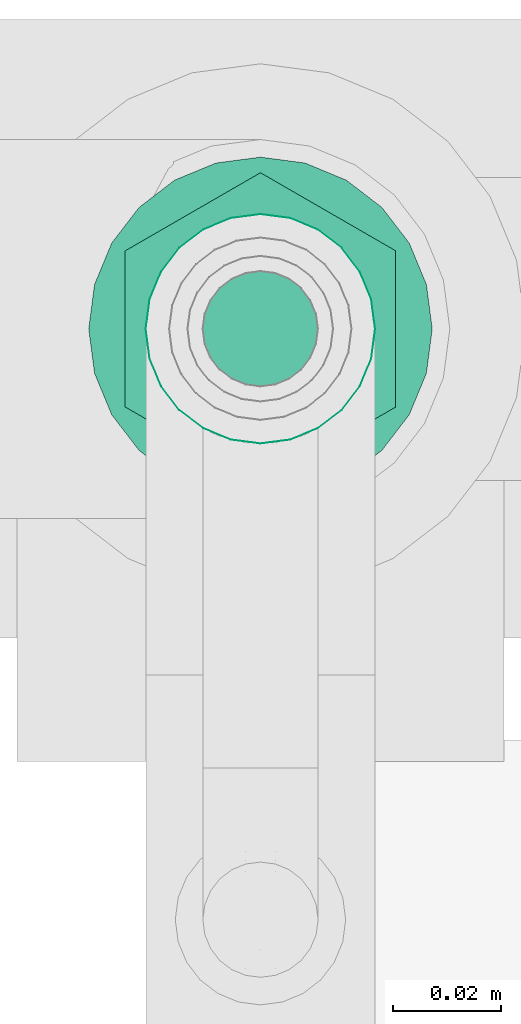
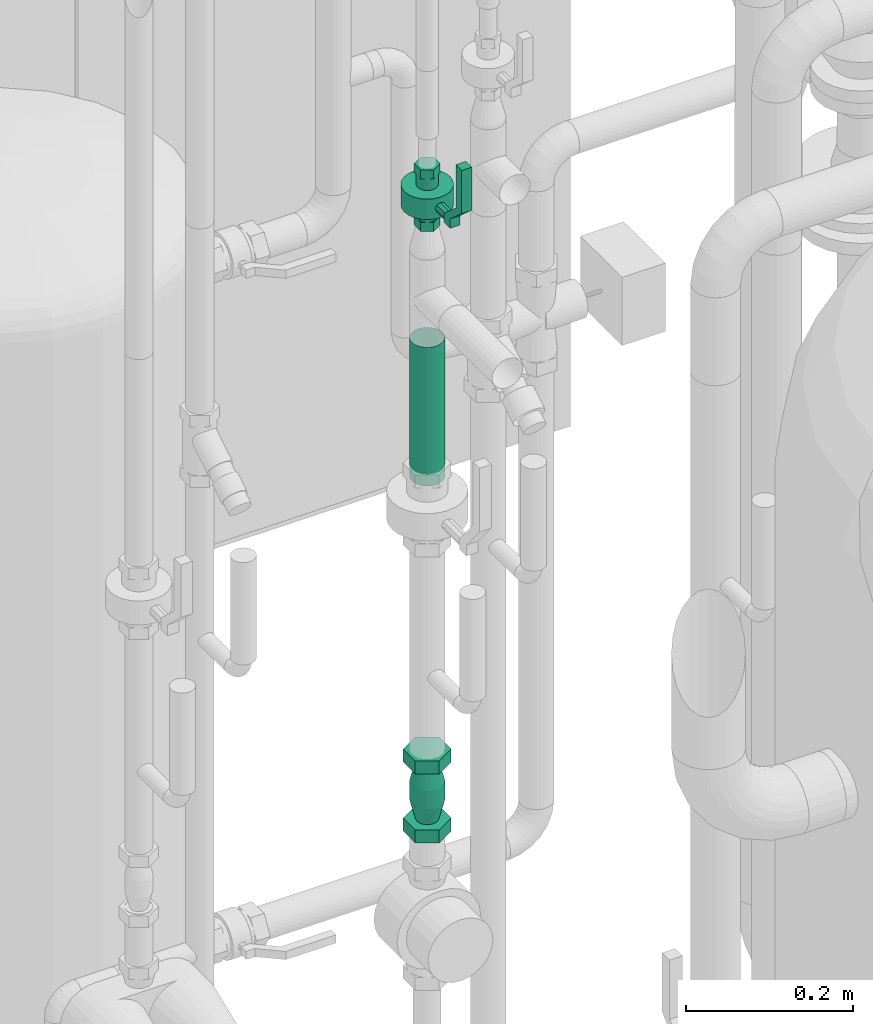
# One storey, part 271 of 374: 2 flow controllers, 1 flow segment.
"""IFC2X3 building model written with IfcOpenShell, lengths in metres."""

from ifc_helpers import new_model, si_unit, direction, origin, place, context, subcontext, project, spatial, open_shell, surface_model, source, transform, mapped, element, save


model = new_model("IFC2X3")

# Units and contexts
model_context = context("Model", 3, precision=1e-05, world=origin(), true_north=direction((-0.4480736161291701, 0.8939966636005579)))
body_context = subcontext(model_context, "Body", "Model", "MODEL_VIEW")
ifc_project = project(units=[si_unit("LENGTHUNIT", "METRE"), si_unit("AREAUNIT", "SQUARE_METRE"), si_unit("VOLUMEUNIT", "CUBIC_METRE"), si_unit("PLANEANGLEUNIT", "RADIAN"), si_unit("THERMODYNAMICTEMPERATUREUNIT", "KELVIN"), si_unit("MASSUNIT", "GRAM", prefix="KILO"), si_unit("TIMEUNIT", "SECOND")], contexts=[model_context])

# Site, building, storey
site_placement = place(None, origin())
site = spatial("IfcSite", under=ifc_project, at=site_placement, Name="Site 1", CompositionType="ELEMENT")
building_placement = place(site_placement, origin())
building = spatial("IfcBuilding", under=site, at=building_placement, Name="Undefined", CompositionType="ELEMENT")
storey_placement = place(building_placement, origin())
storey = spatial("IfcBuildingStorey", under=building, at=storey_placement, Name="Rez de chauss\x8ee", CompositionType="ELEMENT", Elevation=0.0)

# Flow controller
shared_shape_1 = source(origin(), body_context, "Body", "SurfaceModel", [
    surface_model("IfcFaceBasedSurfaceModel", [(0.0, 0.0, 0.0), (0.028867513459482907, 0.0, 0.0), (0.028867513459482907, 0.019099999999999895, 0.0), (0.0, 0.019099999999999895, 0.0), (-0.014433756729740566, 0.0, 0.02499999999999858), (-0.014433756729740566, 0.019099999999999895, 0.02499999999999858), (0.0, 0.0, 0.04999999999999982), (0.0, 0.019099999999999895, 0.04999999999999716), (0.028867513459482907, 0.0, 0.04999999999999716), (0.028867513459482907, 0.019099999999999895, 0.04999999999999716), (0.04330127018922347, 0.0, 0.02499999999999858), (0.04330127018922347, 0.019099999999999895, 0.02499999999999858), (0.00030042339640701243, 0.019099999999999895, 0.025000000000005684), (0.0007820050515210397, 0.019099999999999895, 0.02865797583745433), (-0.006043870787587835, 0.04636666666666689, 0.030486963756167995), (-0.0067662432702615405, 0.04636666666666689, 0.025000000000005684), (0.0021939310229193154, 0.019099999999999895, 0.032066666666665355), (-0.003925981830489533, 0.04636666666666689, 0.03559999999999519), (0.004439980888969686, 0.019099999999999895, 0.03499377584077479), (-0.0005569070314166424, 0.04636666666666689, 0.03999066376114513), (0.007367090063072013, 0.019099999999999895, 0.03723982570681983), (0.0038337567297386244, 0.04636666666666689, 0.043359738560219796), (0.01077578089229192, 0.019099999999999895, 0.038651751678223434), (0.008946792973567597, 0.04636666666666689, 0.04547762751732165), (0.014433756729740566, 0.019099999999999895, 0.03913333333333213), (0.014433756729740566, 0.04636666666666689, 0.0461999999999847), (0.018091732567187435, 0.019099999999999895, 0.038651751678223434), (0.019920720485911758, 0.04636666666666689, 0.04547762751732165), (0.021500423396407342, 0.019099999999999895, 0.03723982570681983), (0.025033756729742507, 0.04636666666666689, 0.043359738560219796), (0.02442753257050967, 0.019099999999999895, 0.03499377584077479), (0.029424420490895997, 0.04636666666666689, 0.03999066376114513), (0.02667358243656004, 0.019099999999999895, 0.032066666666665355), (0.03279349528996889, 0.04636666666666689, 0.03559999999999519), (0.028085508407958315, 0.019099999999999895, 0.02865797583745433), (0.03491138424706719, 0.04636666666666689, 0.030486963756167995), (0.028567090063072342, 0.019099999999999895, 0.025000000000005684), (0.035633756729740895, 0.04636666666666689, 0.025000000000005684), (0.028085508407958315, 0.019099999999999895, 0.021342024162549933), (0.03491138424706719, 0.04636666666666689, 0.019513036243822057), (0.02667358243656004, 0.019099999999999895, 0.017933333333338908), (0.03279349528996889, 0.04636666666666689, 0.014399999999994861), (0.02442753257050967, 0.019099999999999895, 0.01500622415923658), (0.029424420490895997, 0.04636666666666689, 0.010009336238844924), (0.021500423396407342, 0.019099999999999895, 0.012760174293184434), (0.025033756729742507, 0.04636666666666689, 0.006640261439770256), (0.018091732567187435, 0.019099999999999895, 0.01134824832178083), (0.019920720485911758, 0.04636666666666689, 0.004522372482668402), (0.014433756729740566, 0.019099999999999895, 0.010866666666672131), (0.014433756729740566, 0.04636666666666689, 0.003799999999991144), (0.01077578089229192, 0.019099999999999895, 0.01134824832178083), (0.008946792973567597, 0.04636666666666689, 0.004522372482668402), (0.007367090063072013, 0.019099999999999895, 0.012760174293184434), (0.0038337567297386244, 0.04636666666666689, 0.006640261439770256), (0.004439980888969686, 0.019099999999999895, 0.01500622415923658), (-0.0005569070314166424, 0.04636666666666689, 0.010009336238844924), (0.0021939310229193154, 0.019099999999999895, 0.017933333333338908), (-0.003925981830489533, 0.04636666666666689, 0.014399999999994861), (0.0007820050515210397, 0.019099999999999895, 0.021342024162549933), (-0.006043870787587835, 0.04636666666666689, 0.019513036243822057), (0.019920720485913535, 0.07363333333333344, 0.045477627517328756), (0.014433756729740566, 0.07363333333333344, 0.04619999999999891), (0.02503375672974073, 0.07363333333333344, 0.04335973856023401), (0.02942442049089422, 0.07363333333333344, 0.03999066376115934), (0.03279349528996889, 0.07363333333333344, 0.035600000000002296), (0.03491138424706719, 0.07363333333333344, 0.0304869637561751), (0.035633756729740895, 0.07363333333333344, 0.025000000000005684), (0.03491138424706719, 0.07363333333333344, 0.019513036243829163), (0.03279349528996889, 0.07363333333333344, 0.014400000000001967), (0.02942442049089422, 0.07363333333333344, 0.010009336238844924), (0.02503375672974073, 0.07363333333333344, 0.006640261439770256), (0.019920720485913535, 0.07363333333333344, 0.004522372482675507), (0.014433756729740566, 0.07363333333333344, 0.0038000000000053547), (0.00894679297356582, 0.07363333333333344, 0.004522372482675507), (0.0038337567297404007, 0.07363333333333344, 0.006640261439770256), (-0.0005569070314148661, 0.07363333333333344, 0.010009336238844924), (-0.003925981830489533, 0.07363333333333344, 0.014400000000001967), (-0.006043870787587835, 0.07363333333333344, 0.019513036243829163), (-0.0067662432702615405, 0.07363333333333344, 0.025000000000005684), (-0.006043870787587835, 0.07363333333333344, 0.0304869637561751), (-0.003925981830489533, 0.07363333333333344, 0.035600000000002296), (-0.0005569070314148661, 0.07363333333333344, 0.03999066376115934), (0.0038337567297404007, 0.07363333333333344, 0.04335973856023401), (0.00894679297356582, 0.07363333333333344, 0.045477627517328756), (0.0007820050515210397, 0.10090000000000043, 0.028657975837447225), (0.0003004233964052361, 0.10090000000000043, 0.02499999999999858), (0.0021939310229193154, 0.10090000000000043, 0.03206666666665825), (0.004439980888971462, 0.10090000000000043, 0.03499377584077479), (0.007367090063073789, 0.10090000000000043, 0.03723982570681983), (0.010775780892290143, 0.10090000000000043, 0.03865175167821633), (0.014433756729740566, 0.10090000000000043, 0.03913333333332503), (0.01809173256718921, 0.10090000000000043, 0.03865175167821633), (0.021500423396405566, 0.10090000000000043, 0.03723982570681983), (0.024427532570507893, 0.10090000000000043, 0.03499377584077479), (0.02667358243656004, 0.10090000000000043, 0.03206666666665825), (0.028085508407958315, 0.10090000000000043, 0.028657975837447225), (0.02856709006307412, 0.10090000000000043, 0.02499999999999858), (0.028085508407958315, 0.10090000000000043, 0.021342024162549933), (0.02667358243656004, 0.10090000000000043, 0.017933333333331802), (0.024427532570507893, 0.10090000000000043, 0.015006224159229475), (0.021500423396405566, 0.10090000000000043, 0.012760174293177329), (0.01809173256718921, 0.10090000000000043, 0.011348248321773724), (0.014433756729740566, 0.10090000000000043, 0.010866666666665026), (0.010775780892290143, 0.10090000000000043, 0.011348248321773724), (0.007367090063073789, 0.10090000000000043, 0.012760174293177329), (0.004439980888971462, 0.10090000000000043, 0.015006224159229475), (0.0021939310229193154, 0.10090000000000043, 0.017933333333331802), (0.0007820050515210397, 0.10090000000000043, 0.021342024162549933), (0.0, 0.10090000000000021, 0.0), (0.02886751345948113, 0.10090000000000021, 0.0), (0.02886751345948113, 0.1200000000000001, 0.0), (0.0, 0.1200000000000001, 0.0), (-0.014433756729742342, 0.10090000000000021, 0.025000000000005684), (-0.014433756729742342, 0.1200000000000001, 0.025000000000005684), (0.0, 0.10090000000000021, 0.05000000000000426), (0.0, 0.1200000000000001, 0.05000000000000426), (0.02886751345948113, 0.10090000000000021, 0.05000000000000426), (0.02886751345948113, 0.1200000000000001, 0.05000000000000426), (0.0433012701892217, 0.10090000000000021, 0.025000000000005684), (0.0433012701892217, 0.1200000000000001, 0.025000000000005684)], [open_shell([[[0, 1, 2, 3]], [[4, 0, 3, 5]], [[6, 4, 5, 7]], [[8, 6, 7, 9]], [[10, 8, 9, 11]], [[1, 10, 11, 2]], [[1, 0, 4]], [[1, 4, 6]], [[1, 6, 8]], [[1, 8, 10]], [[2, 5, 3]], [[2, 7, 5]], [[2, 9, 7]], [[2, 11, 9]], [[12, 13, 14, 15]], [[13, 16, 17, 14]], [[16, 18, 19, 17]], [[18, 20, 21, 19]], [[20, 22, 23, 21]], [[22, 24, 25, 23]], [[24, 26, 27, 25]], [[26, 28, 29, 27]], [[28, 30, 31, 29]], [[30, 32, 33, 31]], [[32, 34, 35, 33]], [[34, 36, 37, 35]], [[36, 38, 39, 37]], [[38, 40, 41, 39]], [[40, 42, 43, 41]], [[42, 44, 45, 43]], [[44, 46, 47, 45]], [[46, 48, 49, 47]], [[48, 50, 51, 49]], [[50, 52, 53, 51]], [[52, 54, 55, 53]], [[54, 56, 57, 55]], [[56, 58, 59, 57]], [[58, 12, 15, 59]], [[25, 27, 60, 61]], [[27, 29, 62, 60]], [[29, 31, 63, 62]], [[31, 33, 64, 63]], [[33, 35, 65, 64]], [[35, 37, 66, 65]], [[37, 39, 67, 66]], [[39, 41, 68, 67]], [[41, 43, 69, 68]], [[43, 45, 70, 69]], [[45, 47, 71, 70]], [[47, 49, 72, 71]], [[49, 51, 73, 72]], [[51, 53, 74, 73]], [[53, 55, 75, 74]], [[55, 57, 76, 75]], [[57, 59, 77, 76]], [[59, 15, 78, 77]], [[15, 14, 79, 78]], [[14, 17, 80, 79]], [[17, 19, 81, 80]], [[19, 21, 82, 81]], [[21, 23, 83, 82]], [[23, 25, 61, 83]], [[78, 79, 84, 85]], [[79, 80, 86, 84]], [[80, 81, 87, 86]], [[81, 82, 88, 87]], [[82, 83, 89, 88]], [[83, 61, 90, 89]], [[61, 60, 91, 90]], [[60, 62, 92, 91]], [[62, 63, 93, 92]], [[63, 64, 94, 93]], [[64, 65, 95, 94]], [[65, 66, 96, 95]], [[66, 67, 97, 96]], [[67, 68, 98, 97]], [[68, 69, 99, 98]], [[69, 70, 100, 99]], [[70, 71, 101, 100]], [[71, 72, 102, 101]], [[72, 73, 103, 102]], [[73, 74, 104, 103]], [[74, 75, 105, 104]], [[75, 76, 106, 105]], [[76, 77, 107, 106]], [[77, 78, 85, 107]], [[108, 109, 110, 111]], [[112, 108, 111, 113]], [[114, 112, 113, 115]], [[116, 114, 115, 117]], [[118, 116, 117, 119]], [[109, 118, 119, 110]], [[109, 108, 112]], [[109, 112, 114]], [[109, 114, 116]], [[109, 116, 118]], [[110, 113, 111]], [[110, 115, 113]], [[110, 117, 115]], [[110, 119, 117]]])]),
])
flow_controller_1_placement = place(storey_placement, origin())
element("IfcFlowController", 1, at=flow_controller_1_placement, inside=storey, Name="Clapet de retenue", ObjectType="Clapet de retenue", context=body_context, shape_type="MappedRepresentation", body=[
    mapped(shared_shape_1, transform((53.682562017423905, 10.703603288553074, 1.3466475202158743), x_axis=(0.0, 1.0, 0.0), y_axis=(0.0, 0.0, -1.0), z_axis=(-1.0, 0.0, 0.0))),
])

# Flow segment
shared_shape_2 = source(origin(), body_context, "Body", "SurfaceModel", [
    surface_model("IfcFaceBasedSurfaceModel", [(0.0, 0.005534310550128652, 0.0), (0.0, 0.0, 0.0), (0.20343126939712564, 0.0, 0.0), (0.20343126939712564, 0.00553431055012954, 7.105427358e-15), (0.0, -0.00534573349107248, -0.0014323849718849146), (0.20343126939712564, -0.005345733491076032, -0.0014323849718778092), (0.0, -0.010138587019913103, -0.004199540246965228), (0.20343126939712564, -0.010138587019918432, -0.004199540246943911), (0.0, -0.01405193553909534, -0.008112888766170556), (0.20343126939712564, -0.014051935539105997, -0.008112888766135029), (0.0, -0.016819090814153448, -0.012905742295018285), (0.20343126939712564, -0.016819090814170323, -0.012905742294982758), (0.0, -0.018251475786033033, -0.018251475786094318), (0.20343126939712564, -0.018251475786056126, -0.018251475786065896), (0.0, -0.0182514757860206, -0.02378578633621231), (0.20343126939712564, -0.018251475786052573, -0.02378578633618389), (0.0, -0.01681909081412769, -0.029131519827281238), (0.20343126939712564, -0.016819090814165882, -0.029131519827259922), (0.0, -0.014051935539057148, -0.03392437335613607), (0.20343126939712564, -0.01405193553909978, -0.033924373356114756), (0.0, -0.010138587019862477, -0.037837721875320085), (0.20343126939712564, -0.010138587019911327, -0.03783772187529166), (0.0, -0.005345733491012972, -0.040604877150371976), (0.20343126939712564, -0.00534573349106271, -0.040604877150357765), (0.0, 6.4837024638e-14, -0.042037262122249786), (0.20343126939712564, 1.1546319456e-14, -0.04203726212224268), (0.0, 0.005534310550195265, -0.04203726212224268), (0.20343126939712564, 0.005534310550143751, -0.042037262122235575), (0.0, 0.010880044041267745, -0.04060487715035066), (0.20343126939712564, 0.010880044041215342, -0.040604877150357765), (0.0, 0.01567289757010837, -0.03783772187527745), (0.20343126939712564, 0.015672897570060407, -0.03783772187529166), (0.0, 0.019586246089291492, -0.033924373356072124), (0.20343126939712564, 0.01958624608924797, -0.033924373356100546), (0.0, 0.0223534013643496, -0.029131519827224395), (0.20343126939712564, 0.022353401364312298, -0.029131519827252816), (0.0, 0.02378578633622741, -0.023785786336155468), (0.20343126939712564, 0.023785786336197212, -0.02378578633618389), (0.0, 0.023785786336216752, -0.01825147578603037), (0.20343126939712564, 0.023785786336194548, -0.018251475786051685), (0.0, 0.022353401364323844, -0.012905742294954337), (0.20343126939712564, 0.022353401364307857, -0.012905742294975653), (0.0, 0.019586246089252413, -0.008112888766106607), (0.20343126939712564, 0.019586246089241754, -0.008112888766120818), (0.0, 0.015672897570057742, -0.004199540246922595), (0.20343126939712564, 0.015672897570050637, -0.004199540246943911), (0.0, 0.010880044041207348, -0.0014323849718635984), (0.20343126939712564, 0.01088004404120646, -0.0014323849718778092)], [open_shell([[[0, 1, 2, 3]], [[1, 4, 5, 2]], [[4, 6, 7, 5]], [[6, 8, 9, 7]], [[8, 10, 11, 9]], [[10, 12, 13, 11]], [[12, 14, 15, 13]], [[14, 16, 17, 15]], [[16, 18, 19, 17]], [[18, 20, 21, 19]], [[20, 22, 23, 21]], [[22, 24, 25, 23]], [[24, 26, 27, 25]], [[26, 28, 29, 27]], [[28, 30, 31, 29]], [[30, 32, 33, 31]], [[32, 34, 35, 33]], [[34, 36, 37, 35]], [[36, 38, 39, 37]], [[38, 40, 41, 39]], [[40, 42, 43, 41]], [[42, 44, 45, 43]], [[44, 46, 47, 45]], [[46, 0, 3, 47]]])]),
])
flow_segment_placement = place(storey_placement, origin())
element("IfcFlowSegment", 2, at=flow_segment_placement, inside=storey, Name="Tube acier d'après DIN 2448", ObjectType="Tube acier d'après DIN 2448", context=body_context, shape_type="MappedRepresentation", body=[
    mapped(shared_shape_2, transform((53.67803964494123, 10.723524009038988, 1.7468890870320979), x_axis=(0.0, 0.0, 1.0), y_axis=(0.13052619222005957, -0.9914448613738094, 0.0), z_axis=(0.9914448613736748, 0.13052619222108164, 0.0))),
])

# Flow controller
shared_shape_3 = source(origin(), body_context, "Body", "SurfaceModel", [
    surface_model("IfcFaceBasedSurfaceModel", [(0.0, 0.013999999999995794, 0.0), (0.0, 0.0, 0.0), (0.01399999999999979, 0.0, 0.0), (0.01399999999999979, 0.013999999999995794, 0.0), (0.0, 0.0, 0.014000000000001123), (0.01399999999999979, 0.0, 0.014000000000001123), (0.0, 0.013999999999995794, 0.014000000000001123), (0.01399999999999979, 0.013999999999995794, 0.014000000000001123), (0.0, 0.038666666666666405, 0.041999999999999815), (0.014000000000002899, 0.038666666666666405, 0.041999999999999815), (0.0, 0.10199999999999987, 0.041999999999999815), (0.014000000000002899, 0.10199999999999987, 0.041999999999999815), (0.0, 0.10199999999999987, 0.02800000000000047), (0.014000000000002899, 0.10199999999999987, 0.02800000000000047), (0.0, 0.038666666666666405, 0.02800000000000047), (0.014000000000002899, 0.038666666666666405, 0.02800000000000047), (-0.006499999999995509, 0.052000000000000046, -0.06079422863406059), (-0.006499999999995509, 0.052000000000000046, -0.045205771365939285), (-0.006499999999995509, 0.03880000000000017, -0.045205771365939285), (-0.006499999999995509, 0.03880000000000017, -0.06079422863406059), (0.006999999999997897, 0.052000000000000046, -0.06858845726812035), (0.006999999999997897, 0.03880000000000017, -0.06858845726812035), (0.02049999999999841, 0.052000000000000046, -0.06079422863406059), (0.02049999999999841, 0.03880000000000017, -0.06079422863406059), (0.02049999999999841, 0.052000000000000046, -0.045205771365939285), (0.02049999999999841, 0.03880000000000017, -0.045205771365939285), (0.006999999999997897, 0.052000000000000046, -0.03741154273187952), (0.006999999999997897, 0.03880000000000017, -0.03741154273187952), (0.02049999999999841, 0.03880000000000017, -0.053000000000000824), (0.02003999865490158, 0.03880000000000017, -0.049505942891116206), (0.02003999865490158, 0.021999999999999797, -0.049505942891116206), (0.02049999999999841, 0.021999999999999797, -0.053000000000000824), (0.01869134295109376, 0.03880000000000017, -0.04625000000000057), (0.01869134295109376, 0.021999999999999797, -0.04625000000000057), (0.016545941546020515, 0.03880000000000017, -0.04345405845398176), (0.016545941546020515, 0.021999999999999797, -0.04345405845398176), (0.013750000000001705, 0.03880000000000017, -0.04130865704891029), (0.013750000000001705, 0.021999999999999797, -0.04130865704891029), (0.010494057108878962, 0.03880000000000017, -0.03996000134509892), (0.010494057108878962, 0.021999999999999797, -0.03996000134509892), (0.006999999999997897, 0.03880000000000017, -0.03950000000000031), (0.006999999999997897, 0.021999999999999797, -0.03950000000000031), (0.003505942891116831, 0.03880000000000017, -0.03996000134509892), (0.003505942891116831, 0.021999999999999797, -0.03996000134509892), (0.0002500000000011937, 0.03880000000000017, -0.04130865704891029), (0.0002500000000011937, 0.021999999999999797, -0.04130865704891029), (-0.002545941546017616, 0.03880000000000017, -0.04345405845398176), (-0.002545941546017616, 0.021999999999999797, -0.04345405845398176), (-0.00469134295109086, 0.03880000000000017, -0.04625000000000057), (-0.00469134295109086, 0.021999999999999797, -0.04625000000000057), (-0.006039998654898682, 0.03880000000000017, -0.049505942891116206), (-0.006039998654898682, 0.021999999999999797, -0.049505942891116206), (-0.006499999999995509, 0.03880000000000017, -0.053000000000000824), (-0.006499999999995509, 0.021999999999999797, -0.053000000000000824), (-0.006039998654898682, 0.03880000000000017, -0.05649405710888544), (-0.006039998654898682, 0.021999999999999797, -0.05649405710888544), (-0.00469134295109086, 0.03880000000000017, -0.059749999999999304), (-0.00469134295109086, 0.021999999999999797, -0.059749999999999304), (-0.002545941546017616, 0.03880000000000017, -0.06254594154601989), (-0.002545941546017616, 0.021999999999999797, -0.06254594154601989), (0.0002500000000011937, 0.03880000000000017, -0.06469134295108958), (0.0002500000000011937, 0.021999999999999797, -0.06469134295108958), (0.003505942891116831, 0.03880000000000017, -0.06603999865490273), (0.003505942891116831, 0.021999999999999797, -0.06603999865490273), (0.006999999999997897, 0.03880000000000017, -0.06649999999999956), (0.006999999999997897, 0.021999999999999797, -0.06649999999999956), (0.010494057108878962, 0.03880000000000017, -0.06603999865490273), (0.010494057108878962, 0.021999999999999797, -0.06603999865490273), (0.013750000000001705, 0.03880000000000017, -0.06469134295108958), (0.013750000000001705, 0.021999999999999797, -0.06469134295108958), (0.016545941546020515, 0.03880000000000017, -0.06254594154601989), (0.016545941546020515, 0.021999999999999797, -0.06254594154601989), (0.01869134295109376, 0.03880000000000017, -0.059749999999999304), (0.01869134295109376, 0.021999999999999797, -0.059749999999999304), (0.02003999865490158, 0.03880000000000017, -0.05649405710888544), (0.02003999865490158, 0.021999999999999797, -0.05649405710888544), (0.038750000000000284, 0.021999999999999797, -0.053000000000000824), (0.03766814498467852, 0.021999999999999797, -0.04478249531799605), (0.03766814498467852, -0.008000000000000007, -0.04478249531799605), (0.038750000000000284, -0.008000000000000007, -0.053000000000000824), (0.034496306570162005, 0.021999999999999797, -0.03712499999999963), (0.034496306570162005, -0.008000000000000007, -0.03712499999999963), (0.0294506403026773, 0.021999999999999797, -0.03054935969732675), (0.0294506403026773, -0.008000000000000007, -0.03054935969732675), (0.02287499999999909, 0.021999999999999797, -0.02550369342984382), (0.02287499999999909, -0.008000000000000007, -0.02550369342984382), (0.015217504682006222, 0.021999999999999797, -0.022331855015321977), (0.015217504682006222, -0.008000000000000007, -0.022331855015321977), (0.006999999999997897, 0.021999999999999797, -0.021250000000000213), (0.006999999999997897, -0.008000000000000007, -0.021250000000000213), (-0.001217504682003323, 0.021999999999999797, -0.022331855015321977), (-0.001217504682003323, -0.008000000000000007, -0.022331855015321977), (-0.008874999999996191, 0.021999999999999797, -0.02550369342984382), (-0.008874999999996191, -0.008000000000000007, -0.02550369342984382), (-0.015450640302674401, 0.021999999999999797, -0.03054935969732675), (-0.015450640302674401, -0.008000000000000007, -0.03054935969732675), (-0.020496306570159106, 0.021999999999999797, -0.03712499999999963), (-0.020496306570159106, -0.008000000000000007, -0.03712499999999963), (-0.02366814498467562, 0.021999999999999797, -0.04478249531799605), (-0.02366814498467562, -0.008000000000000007, -0.04478249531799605), (-0.024749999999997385, 0.021999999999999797, -0.053000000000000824), (-0.024749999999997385, -0.008000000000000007, -0.053000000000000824), (-0.02366814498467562, 0.021999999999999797, -0.0612175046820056), (-0.02366814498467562, -0.008000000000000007, -0.0612175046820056), (-0.020496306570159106, 0.021999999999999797, -0.06887500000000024), (-0.020496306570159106, -0.008000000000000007, -0.06887500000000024), (-0.015450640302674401, 0.021999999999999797, -0.07545064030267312), (-0.015450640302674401, -0.008000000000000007, -0.07545064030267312), (-0.008874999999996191, 0.021999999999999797, -0.08049630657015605), (-0.008874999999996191, -0.008000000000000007, -0.08049630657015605), (-0.001217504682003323, 0.021999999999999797, -0.0836681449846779), (-0.001217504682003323, -0.008000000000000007, -0.0836681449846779), (0.006999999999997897, 0.021999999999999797, -0.08474999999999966), (0.006999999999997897, -0.008000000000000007, -0.08474999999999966), (0.015217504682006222, 0.021999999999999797, -0.0836681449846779), (0.015217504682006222, -0.008000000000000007, -0.0836681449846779), (0.02287499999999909, 0.021999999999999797, -0.08049630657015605), (0.02287499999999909, -0.008000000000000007, -0.08049630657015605), (0.0294506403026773, 0.021999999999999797, -0.07545064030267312), (0.0294506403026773, -0.008000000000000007, -0.07545064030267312), (0.034496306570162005, 0.021999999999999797, -0.06887500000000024), (0.034496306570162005, -0.008000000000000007, -0.06887500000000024), (0.03766814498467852, 0.021999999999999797, -0.0612175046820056), (0.03766814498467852, -0.008000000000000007, -0.0612175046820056), (0.006999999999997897, 0.021999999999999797, -0.053000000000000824), (0.006999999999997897, -0.008000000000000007, -0.053000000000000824), (0.02049999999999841, -0.008000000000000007, -0.053000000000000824), (0.02003999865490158, -0.008000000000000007, -0.049505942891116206), (0.02003999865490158, -0.024800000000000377, -0.049505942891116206), (0.02049999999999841, -0.024800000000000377, -0.053000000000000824), (0.01869134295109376, -0.008000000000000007, -0.04625000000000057), (0.01869134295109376, -0.024800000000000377, -0.04625000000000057), (0.016545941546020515, -0.008000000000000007, -0.04345405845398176), (0.016545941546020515, -0.024800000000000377, -0.04345405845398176), (0.013750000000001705, -0.008000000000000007, -0.04130865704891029), (0.013750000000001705, -0.024800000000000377, -0.04130865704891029), (0.010494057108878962, -0.008000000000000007, -0.03996000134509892), (0.010494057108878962, -0.024800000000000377, -0.03996000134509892), (0.006999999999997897, -0.008000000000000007, -0.03950000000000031), (0.006999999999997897, -0.024800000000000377, -0.03950000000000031), (0.003505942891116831, -0.008000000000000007, -0.03996000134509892), (0.003505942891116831, -0.024800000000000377, -0.03996000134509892), (0.0002500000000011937, -0.008000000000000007, -0.04130865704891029), (0.0002500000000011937, -0.024800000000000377, -0.04130865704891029), (-0.002545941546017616, -0.008000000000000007, -0.04345405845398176), (-0.002545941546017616, -0.024800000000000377, -0.04345405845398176), (-0.00469134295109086, -0.008000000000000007, -0.04625000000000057), (-0.00469134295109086, -0.024800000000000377, -0.04625000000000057), (-0.006039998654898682, -0.008000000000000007, -0.049505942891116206), (-0.006039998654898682, -0.024800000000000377, -0.049505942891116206), (-0.006499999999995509, -0.008000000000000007, -0.053000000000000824), (-0.006499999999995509, -0.024800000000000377, -0.053000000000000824), (-0.006039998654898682, -0.008000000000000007, -0.05649405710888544), (-0.006039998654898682, -0.024800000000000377, -0.05649405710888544), (-0.00469134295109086, -0.008000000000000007, -0.059749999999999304), (-0.00469134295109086, -0.024800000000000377, -0.059749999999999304), (-0.002545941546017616, -0.008000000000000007, -0.06254594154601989), (-0.002545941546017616, -0.024800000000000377, -0.06254594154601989), (0.0002500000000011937, -0.008000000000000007, -0.06469134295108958), (0.0002500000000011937, -0.024800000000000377, -0.06469134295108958), (0.003505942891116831, -0.008000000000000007, -0.06603999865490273), (0.003505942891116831, -0.024800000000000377, -0.06603999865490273), (0.006999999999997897, -0.008000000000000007, -0.06649999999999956), (0.006999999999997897, -0.024800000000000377, -0.06649999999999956), (0.010494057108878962, -0.008000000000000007, -0.06603999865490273), (0.010494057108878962, -0.024800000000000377, -0.06603999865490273), (0.013750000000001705, -0.008000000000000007, -0.06469134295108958), (0.013750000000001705, -0.024800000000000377, -0.06469134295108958), (0.016545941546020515, -0.008000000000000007, -0.06254594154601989), (0.016545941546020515, -0.024800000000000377, -0.06254594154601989), (0.01869134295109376, -0.008000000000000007, -0.059749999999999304), (0.01869134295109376, -0.024800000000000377, -0.059749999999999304), (0.02003999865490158, -0.008000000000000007, -0.05649405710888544), (0.02003999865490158, -0.024800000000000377, -0.05649405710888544), (-0.006499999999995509, -0.024800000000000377, -0.06079422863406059), (-0.006499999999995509, -0.024800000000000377, -0.045205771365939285), (-0.006499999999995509, -0.038000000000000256, -0.045205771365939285), (-0.006499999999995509, -0.038000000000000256, -0.06079422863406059), (0.006999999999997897, -0.024800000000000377, -0.06858845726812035), (0.006999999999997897, -0.038000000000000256, -0.06858845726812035), (0.02049999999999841, -0.024800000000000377, -0.06079422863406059), (0.02049999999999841, -0.038000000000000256, -0.06079422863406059), (0.02049999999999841, -0.024800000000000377, -0.045205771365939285), (0.02049999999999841, -0.038000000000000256, -0.045205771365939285), (0.006999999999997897, -0.024800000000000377, -0.03741154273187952), (0.006999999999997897, -0.038000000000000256, -0.03741154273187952), (0.007000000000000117, 0.0, -0.05299999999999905), (0.011949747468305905, 0.0020502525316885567, -0.05299999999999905), (0.011949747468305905, 0.0020502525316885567, 0.0), (0.007000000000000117, 0.0, 0.0), (0.01399999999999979, 0.006999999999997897, -0.05299999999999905), (0.01399999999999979, 0.006999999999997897, 0.0), (0.011949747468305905, 0.011949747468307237, -0.05299999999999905), (0.011949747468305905, 0.011949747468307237, 0.0), (0.007000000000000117, 0.013999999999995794, -0.05299999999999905), (0.007000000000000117, 0.013999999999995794, 0.0), (0.00205025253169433, 0.011949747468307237, -0.05299999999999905), (0.00205025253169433, 0.011949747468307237, 0.0), (0.0, 0.006999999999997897, -0.05299999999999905), (0.0, 0.006999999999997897, 0.0), (0.00205025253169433, 0.0020502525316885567, -0.05299999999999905), (0.00205025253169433, 0.0020502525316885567, 0.0)], [open_shell([[[0, 1, 2, 3]], [[1, 4, 5, 2]], [[4, 6, 7, 5]], [[6, 8, 9, 7]], [[8, 10, 11, 9]], [[10, 12, 13, 11]], [[12, 14, 15, 13]], [[14, 0, 3, 15]], [[3, 7, 2]], [[7, 3, 9]], [[15, 9, 3]], [[9, 15, 11]], [[13, 11, 15]], [[5, 2, 7]], [[1, 6, 0]], [[8, 0, 6]], [[0, 8, 14]], [[10, 14, 8]], [[14, 10, 12]], [[6, 1, 4]], [[16, 17, 18, 19]], [[20, 16, 19, 21]], [[22, 20, 21, 23]], [[24, 22, 23, 25]], [[26, 24, 25, 27]], [[17, 26, 27, 18]], [[17, 16, 20]], [[17, 20, 22]], [[17, 22, 24]], [[17, 24, 26]], [[18, 21, 19]], [[18, 23, 21]], [[18, 25, 23]], [[18, 27, 25]], [[28, 29, 30, 31]], [[29, 32, 33, 30]], [[32, 34, 35, 33]], [[34, 36, 37, 35]], [[36, 38, 39, 37]], [[38, 40, 41, 39]], [[40, 42, 43, 41]], [[42, 44, 45, 43]], [[44, 46, 47, 45]], [[46, 48, 49, 47]], [[48, 50, 51, 49]], [[50, 52, 53, 51]], [[52, 54, 55, 53]], [[54, 56, 57, 55]], [[56, 58, 59, 57]], [[58, 60, 61, 59]], [[60, 62, 63, 61]], [[62, 64, 65, 63]], [[64, 66, 67, 65]], [[66, 68, 69, 67]], [[68, 70, 71, 69]], [[70, 72, 73, 71]], [[72, 74, 75, 73]], [[74, 28, 31, 75]], [[76, 77, 78, 79]], [[77, 80, 81, 78]], [[80, 82, 83, 81]], [[82, 84, 85, 83]], [[84, 86, 87, 85]], [[86, 88, 89, 87]], [[88, 90, 91, 89]], [[90, 92, 93, 91]], [[92, 94, 95, 93]], [[94, 96, 97, 95]], [[96, 98, 99, 97]], [[98, 100, 101, 99]], [[100, 102, 103, 101]], [[102, 104, 105, 103]], [[104, 106, 107, 105]], [[106, 108, 109, 107]], [[108, 110, 111, 109]], [[110, 112, 113, 111]], [[112, 114, 115, 113]], [[114, 116, 117, 115]], [[116, 118, 119, 117]], [[118, 120, 121, 119]], [[120, 122, 123, 121]], [[122, 76, 79, 123]], [[124, 77, 76]], [[124, 80, 77]], [[124, 82, 80]], [[124, 84, 82]], [[124, 86, 84]], [[124, 88, 86]], [[124, 90, 88]], [[124, 92, 90]], [[124, 94, 92]], [[124, 96, 94]], [[124, 98, 96]], [[124, 100, 98]], [[124, 102, 100]], [[124, 104, 102]], [[124, 106, 104]], [[124, 108, 106]], [[124, 110, 108]], [[124, 112, 110]], [[124, 114, 112]], [[124, 116, 114]], [[124, 118, 116]], [[124, 120, 118]], [[124, 122, 120]], [[124, 76, 122]], [[125, 123, 79]], [[125, 121, 123]], [[125, 119, 121]], [[125, 117, 119]], [[125, 115, 117]], [[125, 113, 115]], [[125, 111, 113]], [[125, 109, 111]], [[125, 107, 109]], [[125, 105, 107]], [[125, 103, 105]], [[125, 101, 103]], [[125, 99, 101]], [[125, 97, 99]], [[125, 95, 97]], [[125, 93, 95]], [[125, 91, 93]], [[125, 89, 91]], [[125, 87, 89]], [[125, 85, 87]], [[125, 83, 85]], [[125, 81, 83]], [[125, 78, 81]], [[125, 79, 78]], [[126, 127, 128, 129]], [[127, 130, 131, 128]], [[130, 132, 133, 131]], [[132, 134, 135, 133]], [[134, 136, 137, 135]], [[136, 138, 139, 137]], [[138, 140, 141, 139]], [[140, 142, 143, 141]], [[142, 144, 145, 143]], [[144, 146, 147, 145]], [[146, 148, 149, 147]], [[148, 150, 151, 149]], [[150, 152, 153, 151]], [[152, 154, 155, 153]], [[154, 156, 157, 155]], [[156, 158, 159, 157]], [[158, 160, 161, 159]], [[160, 162, 163, 161]], [[162, 164, 165, 163]], [[164, 166, 167, 165]], [[166, 168, 169, 167]], [[168, 170, 171, 169]], [[170, 172, 173, 171]], [[172, 126, 129, 173]], [[174, 175, 176, 177]], [[178, 174, 177, 179]], [[180, 178, 179, 181]], [[182, 180, 181, 183]], [[184, 182, 183, 185]], [[175, 184, 185, 176]], [[175, 174, 178]], [[175, 178, 180]], [[175, 180, 182]], [[175, 182, 184]], [[176, 179, 177]], [[176, 181, 179]], [[176, 183, 181]], [[176, 185, 183]], [[186, 187, 188, 189]], [[187, 190, 191, 188]], [[190, 192, 193, 191]], [[192, 194, 195, 193]], [[194, 196, 197, 195]], [[196, 198, 199, 197]], [[198, 200, 201, 199]], [[200, 186, 189, 201]]])]),
])
flow_controller_2_placement = place(storey_placement, origin())
element("IfcFlowController", 3, at=flow_controller_2_placement, inside=storey, Name="Robinet à boisseau sphérique", ObjectType="Robinet à boisseau sphérique", context=body_context, shape_type="MappedRepresentation", body=[
    mapped(shared_shape_3, transform((53.6505620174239, 10.665037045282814, 2.153120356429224), x_axis=(1.0, 0.0, 0.0), y_axis=(0.0, 0.0, 1.0), z_axis=(0.0, -1.0, 0.0))),
])

save(model, "model.ifc")
